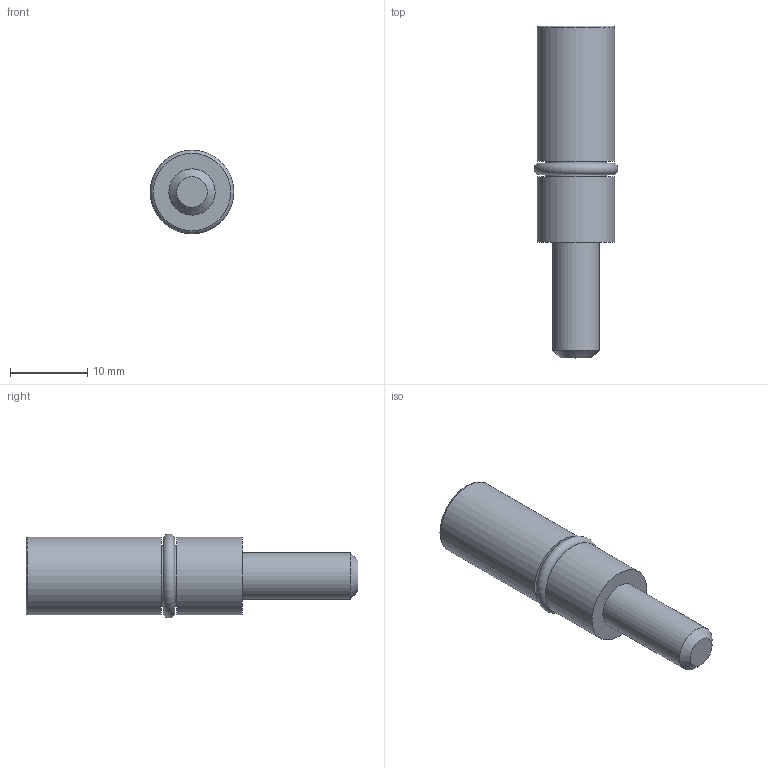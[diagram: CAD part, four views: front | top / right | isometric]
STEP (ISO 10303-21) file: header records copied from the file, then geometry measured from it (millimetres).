
FILE_DESCRIPTION (( 'STEP AP214' ), '1' );
FILE_NAME ('F11306.step', '2024-12-03T16:14:57', ( '' ), ( '' ), 'SwSTEP 2.0', 'SolidWorks 2023', '' );
FILE_SCHEMA (( 'AUTOMOTIVE_DESIGN' ));
Length unit declared in the file: millimetre
Products named in the file (1): F11306
Bounding box: 10.85 x 43 x 10.85 mm (x, y, z)
Volume: 2497.8 mm3; surface area: 1575.5 mm2
Topology: 2 solids, 2 shells, 19 faces, 36 edges, 23 vertices
Faces by surface type: plane 12, cylinder 4, torus 2, cone 1
Full cylindrical faces by diameter (mm): 6 x1, 7.85 x1, 10 x2
Entity records: 464 total; most frequent: DIRECTION 78, CARTESIAN_POINT 70, ORIENTED_EDGE 56, AXIS2_PLACEMENT_3D 30, EDGE_LOOP 28, EDGE_CURVE 28, FACE_OUTER_BOUND 23, VERTEX_POINT 22
